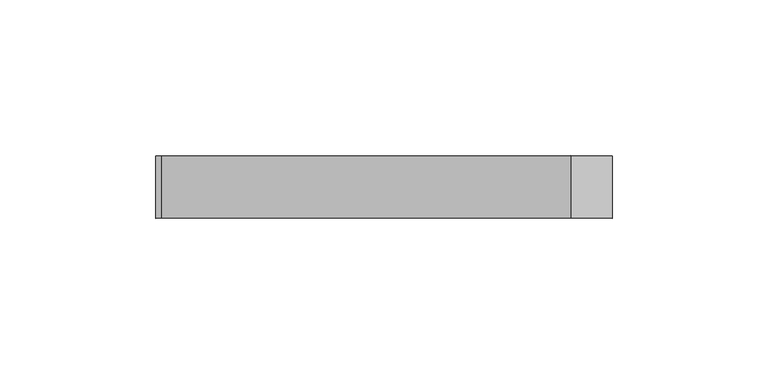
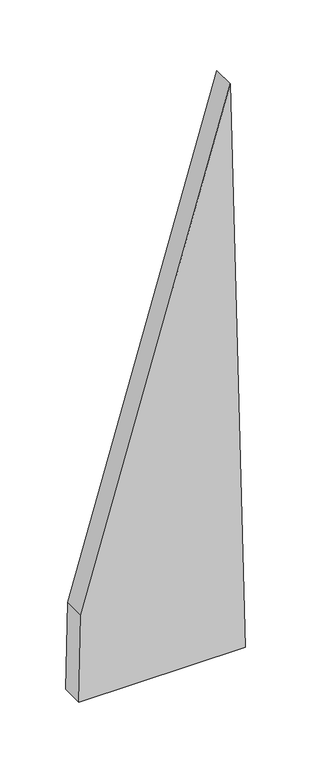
"""IFC4 building model written with IfcOpenShell, lengths in millimetres: plate geometry, 空系统嵌板 : 空."""

from ifc_helpers import new_model, si_unit, frame, origin, place, context, project, spatial, polyline, outline, extrude, source, transform, mapped, element, save


def plate_7408a29d(model_context):
    return source(origin(), model_context, "Body", "SweptSolid", [
        extrude(outline(polyline([(0.0, -73.1758057), (0.0, 73.1758057), (528.7303536, 59.8467837), (80.2335399, -71.235433), (0.0, -73.1758057)])), frame((0.0, -10.0, 0.0), z_axis=(0.0, 1.0, 0.0), x_axis=(0.0, 0.0, 1.0)), (0.0, 0.0, 1.0), 20.0),
    ])


if __name__ == "__main__":
    model = new_model("IFC4")
    model_context = context("Model", 3, world=origin())
    ifc_project = project(units=[si_unit("LENGTHUNIT", "METRE", prefix="MILLI")], contexts=[model_context])
    site = spatial("IfcSite", under=ifc_project)
    building = spatial("IfcBuilding", under=site)
    placement = place(None, origin())
    plate_shape = plate_7408a29d(model_context)
    element("IfcPlate", 1, ObjectType="空系统嵌板 : 空", at=placement, inside=building, context=model_context, shape_type="MappedRepresentation", body=[
        mapped(plate_shape, transform((0.0, 0.0, 0.0), x_axis=(1.0, 0.0, 0.0), y_axis=(0.0, 1.0, 0.0), z_axis=(0.0, 0.0, 1.0))),
    ])
    save(model, "model.ifc")
